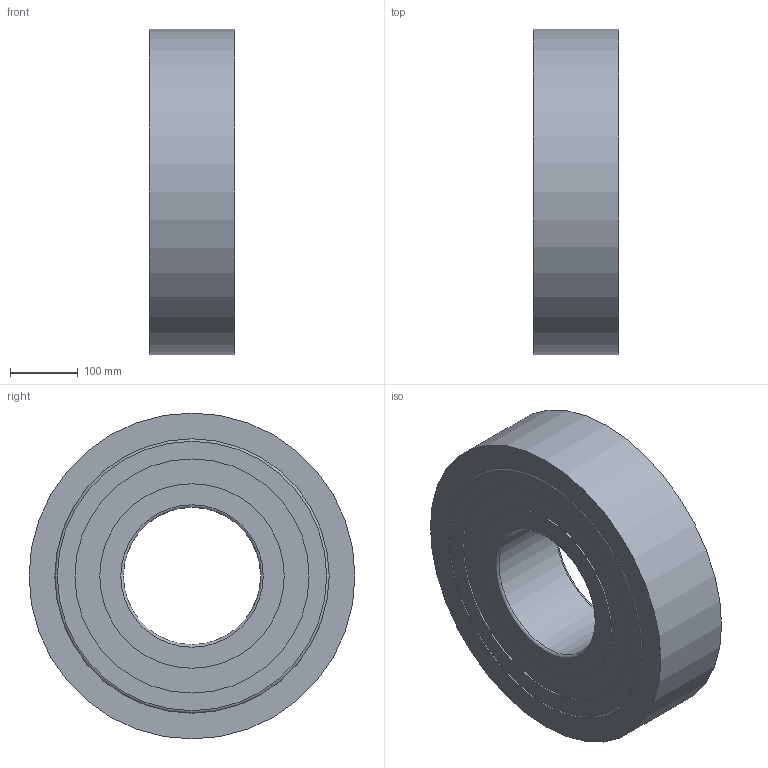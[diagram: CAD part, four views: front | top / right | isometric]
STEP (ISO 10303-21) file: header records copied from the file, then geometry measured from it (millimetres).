
FILE_DESCRIPTION((''),'1');
FILE_NAME('H:/図庫/国内ﾕﾆｯﾄ/ｶﾀﾛｸﾞ/ｺﾞﾑ直巻/ホームページ用ＣＡＤ図面/update用/3', '2017-07-14T09:01:38',(''), (''), 'KCM Version 1.1.1442.0', 'Kubotek KeyCreator', '');
FILE_SCHEMA(('AUTOMOTIVE_DESIGN'));
Length unit declared in the file: inch
Bounding box: 127 x 482.6 x 482.6 mm (x, y, z)
Surface area: 597691.3 mm2 (no closed solid volume)
Topology: 0 solids, 20 shells, 20 faces, 68 edges, 56 vertices
Faces by surface type: plane 8, cylinder 8, torus 4
Full cylindrical faces by diameter (mm): 203.2 x1, 273.05 x2, 346.71 x2, 406.4 x2, 482.6 x1
Entity records: 790 total; most frequent: DIRECTION 154, CARTESIAN_POINT 137, ORIENTED_EDGE 80, AXIS2_PLACEMENT_3D 73, EDGE_CURVE 68, VERTEX_POINT 56, CIRCLE 52, EDGE_LOOP 28
